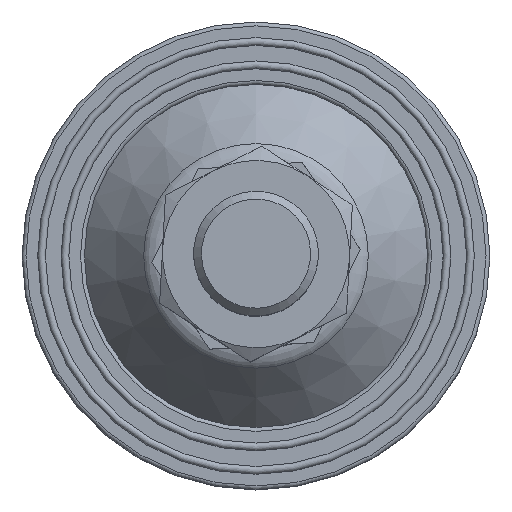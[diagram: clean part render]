
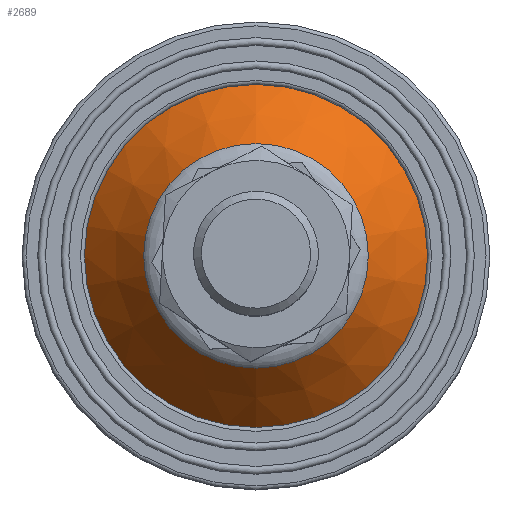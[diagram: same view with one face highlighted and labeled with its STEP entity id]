
A CAD part, top view. The second image highlights one B-rep face of the part: STEP entity #2689.
In plain terms, the highlighted conical face has half-angle 40.365 degrees and reference radius 17.75 mm.
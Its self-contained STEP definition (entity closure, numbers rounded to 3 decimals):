
#2647=CARTESIAN_POINT('',(56.447,24.774,15.897));
#2648=VERTEX_POINT('',#2647);
#2649=CARTESIAN_POINT('',(56.447,39.172,15.897));
#2650=DIRECTION('',(0.0,0.0,1.0));
#2651=DIRECTION('',(0.0,1.0,0.0));
#2652=AXIS2_PLACEMENT_3D('',#2649,#2650,#2651);
#2653=CIRCLE('',#2652,14.398);
#2654=EDGE_CURVE('',#2648,#2648,#2653,.T.);
#2670=CARTESIAN_POINT('',(56.447,39.172,11.954));
#2671=DIRECTION('',(0.,0.,-1.0));
#2672=DIRECTION('',(0.0,-1.0,0.0));
#2673=AXIS2_PLACEMENT_3D('',#2670,#2671,#2672);
#2674=CONICAL_SURFACE('',#2673,17.75,40.365);
#2675=CARTESIAN_POINT('',(56.447,17.172,6.954));
#2676=VERTEX_POINT('',#2675);
#2677=CARTESIAN_POINT('',(56.447,39.172,6.954));
#2678=DIRECTION('',(0.0,0.0,1.0));
#2679=DIRECTION('',(0.0,-1.0,0.0));
#2680=AXIS2_PLACEMENT_3D('',#2677,#2678,#2679);
#2681=CIRCLE('',#2680,22.0);
#2682=EDGE_CURVE('',#2676,#2676,#2681,.T.);
#2683=ORIENTED_EDGE('',*,*,#2682,.T.);
#2684=EDGE_LOOP('',(#2683));
#2685=FACE_OUTER_BOUND('',#2684,.T.);
#2686=ORIENTED_EDGE('',*,*,#2654,.F.);
#2687=EDGE_LOOP('',(#2686));
#2688=FACE_BOUND('',#2687,.T.);
#2689=ADVANCED_FACE('',(#2685,#2688),#2674,.T.);
